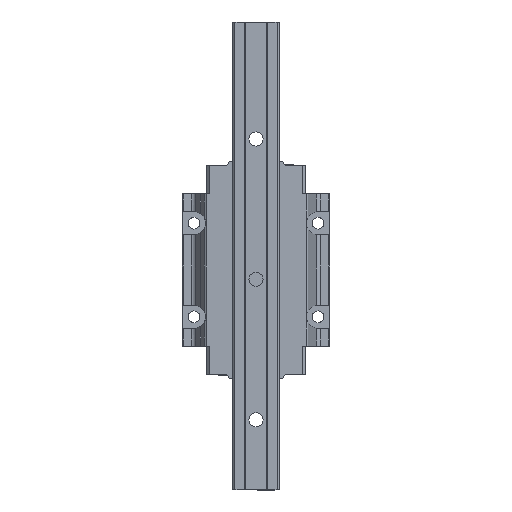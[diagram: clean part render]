
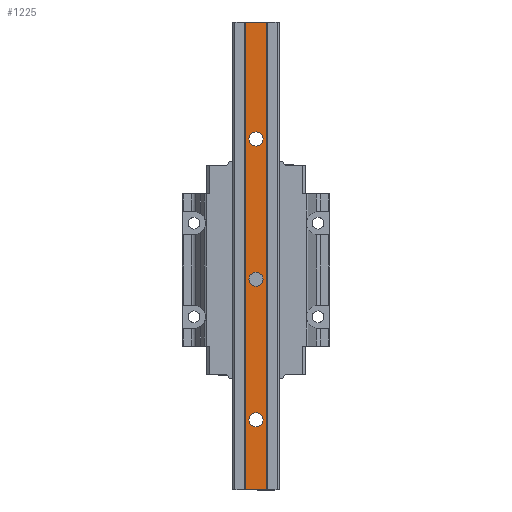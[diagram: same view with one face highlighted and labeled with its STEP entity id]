
A CAD part, front view. The second image highlights one B-rep face of the part: STEP entity #1225.
In plain terms, the highlighted planar face has unit normal (0, -1, 0).
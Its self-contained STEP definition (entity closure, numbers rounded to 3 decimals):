
#1225=ADVANCED_FACE('',(#3353,#3354,#3355,#3356),#1709,.T.);
#1709=PLANE('',#9054);
#1919=LINE('',#11735,#2579);
#1920=LINE('',#11738,#2580);
#1921=LINE('',#11740,#2581);
#1922=LINE('',#11742,#2582);
#2579=VECTOR('',#9690,1.);
#2580=VECTOR('',#9691,1.);
#2581=VECTOR('',#9692,1.);
#2582=VECTOR('',#9693,1.);
#3353=FACE_BOUND('',#3523,.T.);
#3354=FACE_BOUND('',#3524,.T.);
#3355=FACE_BOUND('',#3525,.T.);
#3356=FACE_BOUND('',#3526,.T.);
#3523=EDGE_LOOP('',(#4103));
#3524=EDGE_LOOP('',(#4104,#4105,#4106,#4107));
#3525=EDGE_LOOP('',(#4108));
#3526=EDGE_LOOP('',(#4109));
#4103=ORIENTED_EDGE('',*,*,#7506,.T.);
#4104=ORIENTED_EDGE('',*,*,#7507,.F.);
#4105=ORIENTED_EDGE('',*,*,#7508,.F.);
#4106=ORIENTED_EDGE('',*,*,#7509,.T.);
#4107=ORIENTED_EDGE('',*,*,#7510,.T.);
#4108=ORIENTED_EDGE('',*,*,#7511,.T.);
#4109=ORIENTED_EDGE('',*,*,#7512,.T.);
#6637=VERTEX_POINT('',#11734);
#6638=VERTEX_POINT('',#11736);
#6639=VERTEX_POINT('',#11737);
#6640=VERTEX_POINT('',#11739);
#6641=VERTEX_POINT('',#11741);
#6642=VERTEX_POINT('',#11744);
#6643=VERTEX_POINT('',#11746);
#7506=EDGE_CURVE('',#6637,#6637,#8773,.T.);
#7507=EDGE_CURVE('',#6638,#6639,#1919,.T.);
#7508=EDGE_CURVE('',#6640,#6638,#1920,.T.);
#7509=EDGE_CURVE('',#6640,#6641,#1921,.T.);
#7510=EDGE_CURVE('',#6641,#6639,#1922,.T.);
#7511=EDGE_CURVE('',#6642,#6642,#8774,.T.);
#7512=EDGE_CURVE('',#6643,#6643,#8775,.T.);
#8773=CIRCLE('',#9051,3.);
#8774=CIRCLE('',#9052,3.);
#8775=CIRCLE('',#9053,3.);
#9051=AXIS2_PLACEMENT_3D('',#11733,#9688,#9689);
#9052=AXIS2_PLACEMENT_3D('',#11743,#9694,#9695);
#9053=AXIS2_PLACEMENT_3D('',#11745,#9696,#9697);
#9054=AXIS2_PLACEMENT_3D('',#11747,#9698,#9699);
#9688=DIRECTION('',(0.,1.,0.));
#9689=DIRECTION('',(0.,0.,-1.));
#9690=DIRECTION('',(-1.,0.,0.));
#9691=DIRECTION('',(0.,0.,-1.));
#9692=DIRECTION('',(-1.,0.,0.));
#9693=DIRECTION('',(0.,0.,-1.));
#9694=DIRECTION('',(0.,1.,0.));
#9695=DIRECTION('',(0.,0.,-1.));
#9696=DIRECTION('',(0.,1.,0.));
#9697=DIRECTION('',(0.,0.,-1.));
#9698=DIRECTION('',(0.,-1.,0.));
#9699=DIRECTION('',(0.,0.,-1.));
#11733=CARTESIAN_POINT('',(-8.714,-7.953,150.));
#11734=CARTESIAN_POINT('',(-8.714,-7.953,147.));
#11735=CARTESIAN_POINT('',(-4.214,-7.953,120.));
#11736=CARTESIAN_POINT('',(-4.214,-7.953,120.));
#11737=CARTESIAN_POINT('',(-13.214,-7.953,120.));
#11738=CARTESIAN_POINT('',(-4.214,-7.953,300.));
#11739=CARTESIAN_POINT('',(-4.214,-7.953,320.));
#11740=CARTESIAN_POINT('',(2.286,-7.953,320.));
#11741=CARTESIAN_POINT('',(-13.214,-7.953,320.));
#11742=CARTESIAN_POINT('',(-13.214,-7.953,300.));
#11743=CARTESIAN_POINT('',(-8.714,-7.953,270.));
#11744=CARTESIAN_POINT('',(-8.714,-7.953,267.));
#11745=CARTESIAN_POINT('',(-8.714,-7.953,210.));
#11746=CARTESIAN_POINT('',(-8.714,-7.953,207.));
#11747=CARTESIAN_POINT('',(-4.214,-7.953,300.));
